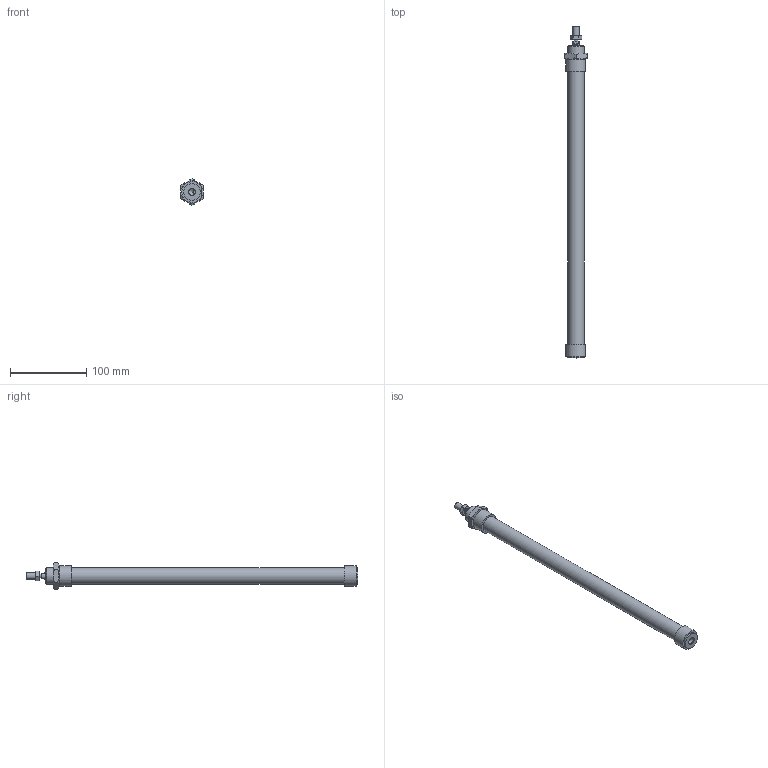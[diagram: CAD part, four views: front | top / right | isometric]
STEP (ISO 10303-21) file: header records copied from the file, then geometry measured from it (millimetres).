
FILE_DESCRIPTION((''),'2;1');
FILE_NAME('I:\Area Tecnica\Disegni\VARIE-3D\Componenti\1280\1281_##_####_#\1281_20_0320.iam.stp','2009-06-04T09:39:55',(''),(''),'Autodesk Inventor 2010','Autodesk Inventor 2010','');
FILE_SCHEMA(('AUTOMOTIVE_DESIGN { 1 0 10303 214 1 1 1 1 }'));
Length unit declared in the file: millimetre
Products named in the file (5): 1281_20_0320; C1281_20_320; S1280_20_320; 1200_20_05; 1200_20_06
Assembly tree (4 placements, depth 2):
  1281_20_0320
    C1281_20_320
    S1280_20_320
    1200_20_05
    1200_20_06
Bounding box: 30 x 434.5 x 34.64 mm (x, y, z)
Volume: 154278.1 mm3; surface area: 50874.7 mm2
Topology: 4 solids, 4 shells, 86 faces, 185 edges, 112 vertices
Faces by surface type: plane 36, cone 26, bspline 15, cylinder 9
Full cylindrical faces by diameter (mm): 6.5 x1, 8 x3, 21.2 x1, 22 x2
Entity records: 2537 total; most frequent: CARTESIAN_POINT 698, DIRECTION 332, ORIENTED_EDGE 310, EDGE_CURVE 155, AXIS2_PLACEMENT_3D 148, EDGE_LOOP 120, VERTEX_POINT 103, STYLED_ITEM 90
